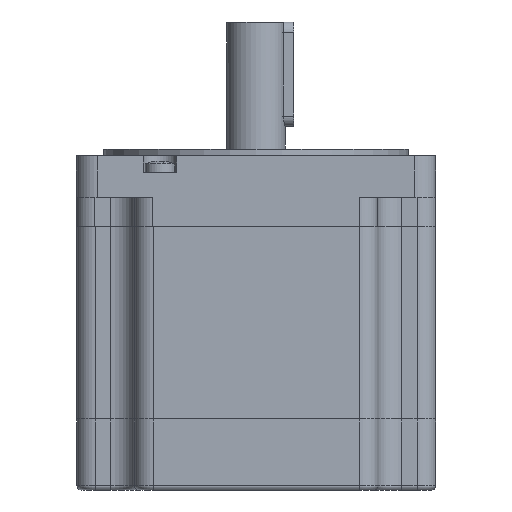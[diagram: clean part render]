
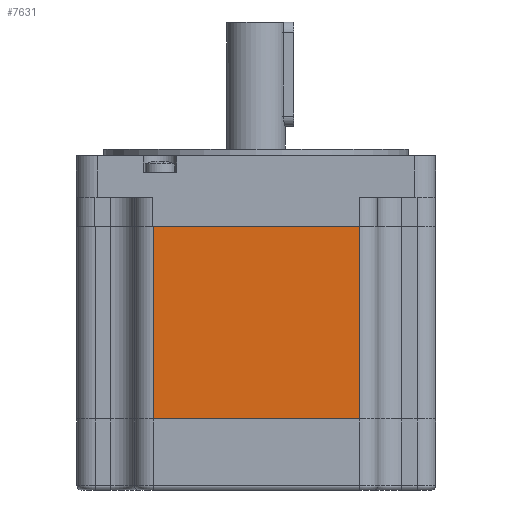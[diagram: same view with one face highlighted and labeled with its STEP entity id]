
A CAD part, front view. The second image highlights one B-rep face of the part: STEP entity #7631.
In plain terms, the highlighted planar face has unit normal (0, -1, 0).
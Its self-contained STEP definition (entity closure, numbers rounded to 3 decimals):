
#69 = VERTEX_POINT ( 'NONE', #4005 ) ;
#1165 = VERTEX_POINT ( 'NONE', #5673 ) ;
#1317 = ORIENTED_EDGE ( 'NONE', *, *, #2156, .F. ) ;
#1582 = ORIENTED_EDGE ( 'NONE', *, *, #3299, .F. ) ;
#2156 = EDGE_CURVE ( 'NONE', #3919, #1165, #3822, .T. ) ;
#2416 = DIRECTION ( 'NONE',  ( 0., 0., 1. ) ) ;
#2841 = VECTOR ( 'NONE', #7118, 1000. ) ;
#2972 = VECTOR ( 'NONE', #5723, 1000. ) ;
#3017 = EDGE_CURVE ( 'NONE', #3919, #69, #4738, .T. ) ;
#3299 = EDGE_CURVE ( 'NONE', #6252, #69, #7241, .T. ) ;
#3311 = AXIS2_PLACEMENT_3D ( 'NONE', #10399, #7246, #2416 ) ;
#3389 = DIRECTION ( 'NONE',  ( 1., 0., 0. ) ) ;
#3750 = ORIENTED_EDGE ( 'NONE', *, *, #8430, .F. ) ;
#3822 = LINE ( 'NONE', #4372, #7821 ) ;
#3919 = VERTEX_POINT ( 'NONE', #9873 ) ;
#4005 = CARTESIAN_POINT ( 'NONE',  ( 24.655, -42.925, -29. ) ) ;
#4372 = CARTESIAN_POINT ( 'NONE',  ( -24.655, -42.925, 10. ) ) ;
#4634 = CARTESIAN_POINT ( 'NONE',  ( 24.655, -42.925, 17. ) ) ;
#4738 = LINE ( 'NONE', #7151, #2841 ) ;
#4792 = CARTESIAN_POINT ( 'NONE',  ( 24.655, -42.925, 17. ) ) ;
#4821 = PLANE ( 'NONE',  #3311 ) ;
#5673 = CARTESIAN_POINT ( 'NONE',  ( -24.655, -42.925, 17. ) ) ;
#5723 = DIRECTION ( 'NONE',  ( 0., 0., -1. ) ) ;
#5893 = DIRECTION ( 'NONE',  ( 0., 0., 1. ) ) ;
#6175 = VECTOR ( 'NONE', #3389, 1000. ) ;
#6252 = VERTEX_POINT ( 'NONE', #4792 ) ;
#7118 = DIRECTION ( 'NONE',  ( 1., 0., 0. ) ) ;
#7151 = CARTESIAN_POINT ( 'NONE',  ( -37.225, -42.925, -29. ) ) ;
#7241 = LINE ( 'NONE', #4634, #2972 ) ;
#7246 = DIRECTION ( 'NONE',  ( 0., 1., 0. ) ) ;
#7631 = ADVANCED_FACE ( 'NONE', ( #10338 ), #4821, .F. ) ;
#7821 = VECTOR ( 'NONE', #5893, 1000. ) ;
#8020 = LINE ( 'NONE', #8165, #6175 ) ;
#8165 = CARTESIAN_POINT ( 'NONE',  ( -34.805, -42.925, 17. ) ) ;
#8430 = EDGE_CURVE ( 'NONE', #1165, #6252, #8020, .T. ) ;
#9873 = CARTESIAN_POINT ( 'NONE',  ( -24.655, -42.925, -29. ) ) ;
#9875 = ORIENTED_EDGE ( 'NONE', *, *, #3017, .T. ) ;
#9878 = EDGE_LOOP ( 'NONE', ( #1317, #9875, #1582, #3750 ) ) ;
#10338 = FACE_OUTER_BOUND ( 'NONE', #9878, .T. ) ;
#10399 = CARTESIAN_POINT ( 'NONE',  ( -37.225, -42.925, 10. ) ) ;
